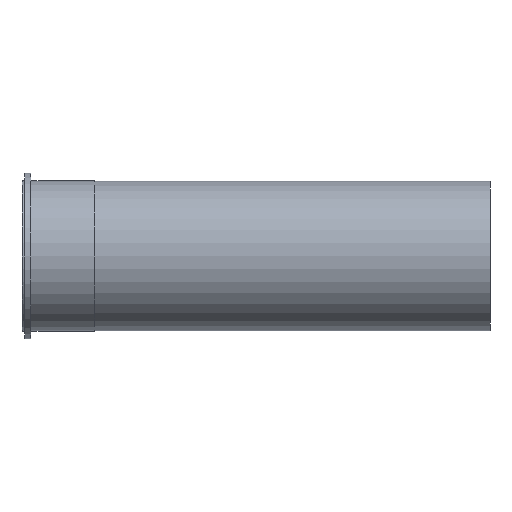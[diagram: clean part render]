
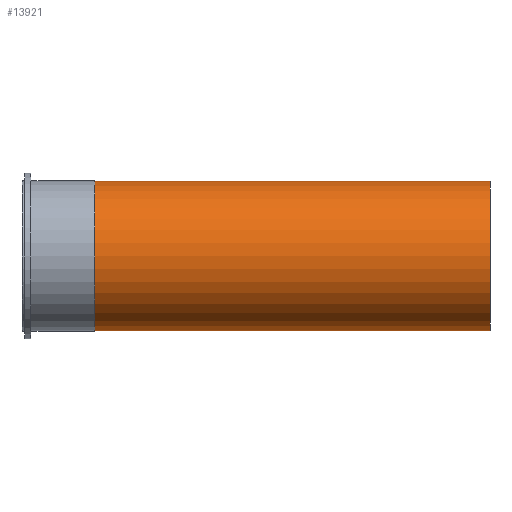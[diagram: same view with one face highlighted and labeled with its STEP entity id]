
A CAD part, front view. The second image highlights one B-rep face of the part: STEP entity #13921.
In plain terms, the highlighted cylindrical face has radius 79.883 mm (diameter 159.766 mm), a full revolution.
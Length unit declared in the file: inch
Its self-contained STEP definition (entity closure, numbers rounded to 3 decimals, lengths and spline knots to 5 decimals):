
#13890=CARTESIAN_POINT('',(3.06,3.145,0.0));
#13891=VERTEX_POINT('',#13890);
#13892=CARTESIAN_POINT('',(3.06,0.0,0.0));
#13893=DIRECTION('',(1.0,0.0,0.0));
#13894=DIRECTION('',(0.0,1.0,0.0));
#13895=AXIS2_PLACEMENT_3D('',#13892,#13893,#13894);
#13896=CIRCLE('',#13895,3.145);
#13897=EDGE_CURVE('',#13891,#13891,#13896,.T.);
#13902=CARTESIAN_POINT('',(11.37252,0.0,0.0));
#13903=DIRECTION('',(1.0,0.0,0.0));
#13904=DIRECTION('',(0.0,1.0,0.0));
#13905=AXIS2_PLACEMENT_3D('',#13902,#13903,#13904);
#13906=CYLINDRICAL_SURFACE('',#13905,3.145);
#13907=CARTESIAN_POINT('',(19.68504,3.145,0.0));
#13908=VERTEX_POINT('',#13907);
#13909=CARTESIAN_POINT('',(19.68504,0.0,0.0));
#13910=DIRECTION('',(1.0,0.0,0.0));
#13911=DIRECTION('',(0.0,1.0,0.0));
#13912=AXIS2_PLACEMENT_3D('',#13909,#13910,#13911);
#13913=CIRCLE('',#13912,3.145);
#13914=EDGE_CURVE('',#13908,#13908,#13913,.T.);
#13915=ORIENTED_EDGE('',*,*,#13914,.F.);
#13916=EDGE_LOOP('',(#13915));
#13917=FACE_OUTER_BOUND('',#13916,.T.);
#13918=ORIENTED_EDGE('',*,*,#13897,.T.);
#13919=EDGE_LOOP('',(#13918));
#13920=FACE_BOUND('',#13919,.T.);
#13921=ADVANCED_FACE('',(#13917,#13920),#13906,.T.);
